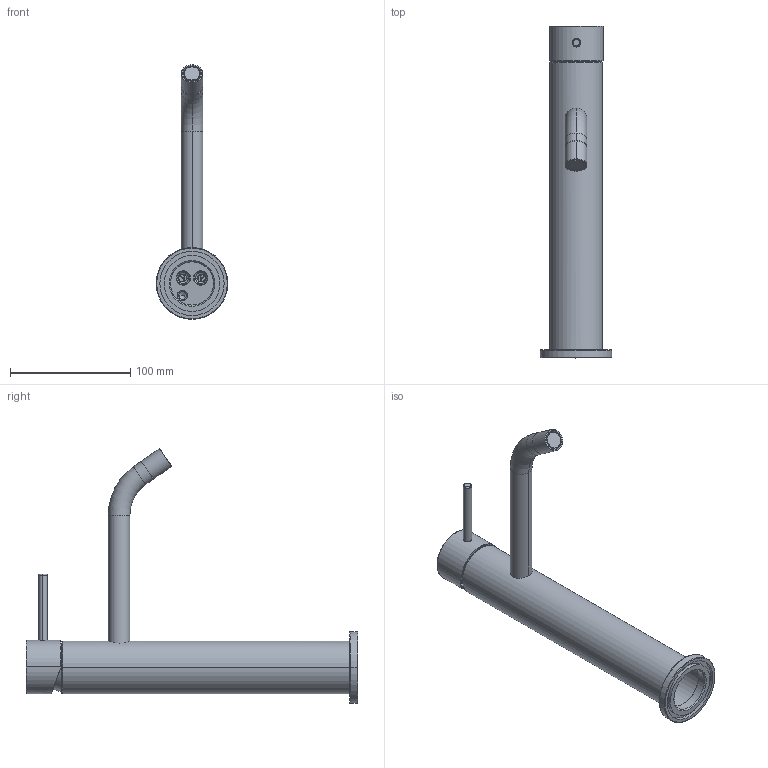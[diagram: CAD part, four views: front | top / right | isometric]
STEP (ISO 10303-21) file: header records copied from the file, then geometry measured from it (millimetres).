
FILE_DESCRIPTION((''),'2;1');
FILE_NAME('F3031L_FILE_3D','2016-01-27T',('ivanv'),(''),'CREO PARAMETRIC BY PTC INC, 2015290','CREO PARAMETRIC BY PTC INC, 2015290','');
FILE_SCHEMA(('CONFIG_CONTROL_DESIGN'));
Length unit declared in the file: millimetre
Products named in the file (1): F3031L_FILE_3D
Bounding box: 59.7 x 276.1 x 211.85 mm (x, y, z)
Volume: 213162.1 mm3; surface area: 101373.9 mm2
Topology: 3 solids, 3 shells, 684 faces, 1697 edges, 1047 vertices
Faces by surface type: plane 344, cylinder 136, bspline 77, cone 71, torus 54, sphere 2
Entity records: 24003 total; most frequent: CARTESIAN_POINT 8173, ORIENTED_EDGE 3374, DIRECTION 3119, EDGE_CURVE 1687, VECTOR 1089, LINE 1089, VERTEX_POINT 1047, AXIS2_PLACEMENT_3D 1015
